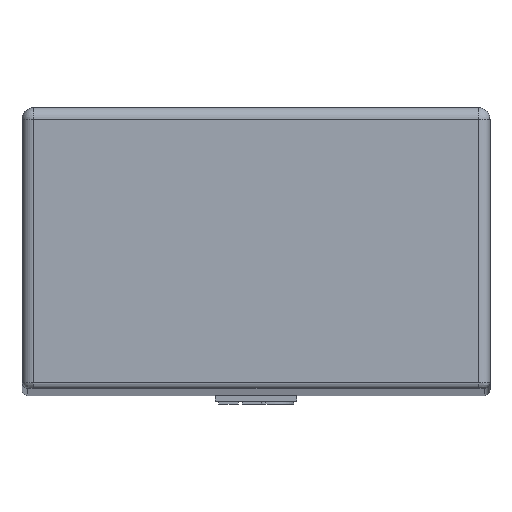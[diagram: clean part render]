
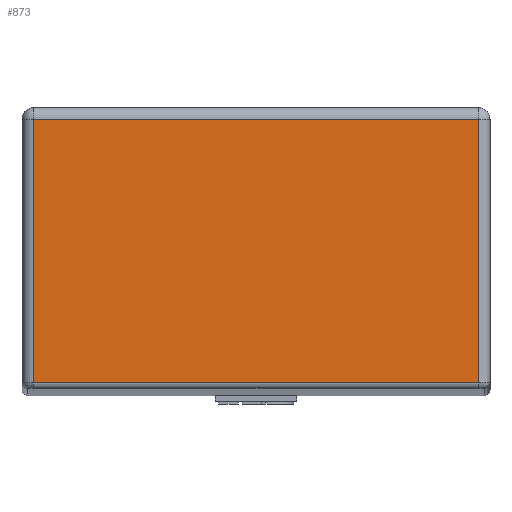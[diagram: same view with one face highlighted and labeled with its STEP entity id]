
A CAD part, top view. The second image highlights one B-rep face of the part: STEP entity #873.
In plain terms, the highlighted planar face has unit normal (0, 0, 1).
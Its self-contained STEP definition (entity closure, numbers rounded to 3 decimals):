
#24=PLANE('',#962);
#56=LINE('',#1354,#134);
#60=LINE('',#1375,#138);
#61=LINE('',#1377,#139);
#62=LINE('',#1378,#140);
#134=VECTOR('',#1070,10.);
#138=VECTOR('',#1084,10.);
#139=VECTOR('',#1085,10.);
#140=VECTOR('',#1086,10.);
#234=FACE_OUTER_BOUND('',#288,.T.);
#288=EDGE_LOOP('',(#602,#603,#604,#605));
#391=VERTEX_POINT('',#1346);
#393=VERTEX_POINT('',#1352);
#396=VERTEX_POINT('',#1374);
#397=VERTEX_POINT('',#1376);
#469=EDGE_CURVE('',#393,#391,#56,.T.);
#476=EDGE_CURVE('',#396,#393,#60,.T.);
#477=EDGE_CURVE('',#397,#396,#61,.T.);
#478=EDGE_CURVE('',#391,#397,#62,.T.);
#602=ORIENTED_EDGE('',*,*,#469,.F.);
#603=ORIENTED_EDGE('',*,*,#476,.F.);
#604=ORIENTED_EDGE('',*,*,#477,.F.);
#605=ORIENTED_EDGE('',*,*,#478,.F.);
#873=ADVANCED_FACE('',(#234),#24,.T.);
#962=AXIS2_PLACEMENT_3D('',#1373,#1082,#1083);
#1070=DIRECTION('',(-1.,0.,0.));
#1082=DIRECTION('center_axis',(0.,0.,1.));
#1083=DIRECTION('ref_axis',(1.,0.,0.));
#1084=DIRECTION('',(0.,-1.,0.));
#1085=DIRECTION('',(1.,0.,0.));
#1086=DIRECTION('',(0.,1.,0.));
#1346=CARTESIAN_POINT('',(-38.,1.,350.));
#1352=CARTESIAN_POINT('',(38.,1.,350.));
#1354=CARTESIAN_POINT('',(-20.,1.,350.));
#1373=CARTESIAN_POINT('Origin',(-40.,0.,350.));
#1374=CARTESIAN_POINT('',(38.,46.,350.));
#1375=CARTESIAN_POINT('',(38.,0.,350.));
#1376=CARTESIAN_POINT('',(-38.,46.,350.));
#1377=CARTESIAN_POINT('',(-20.,46.,350.));
#1378=CARTESIAN_POINT('',(-38.,0.,350.));
